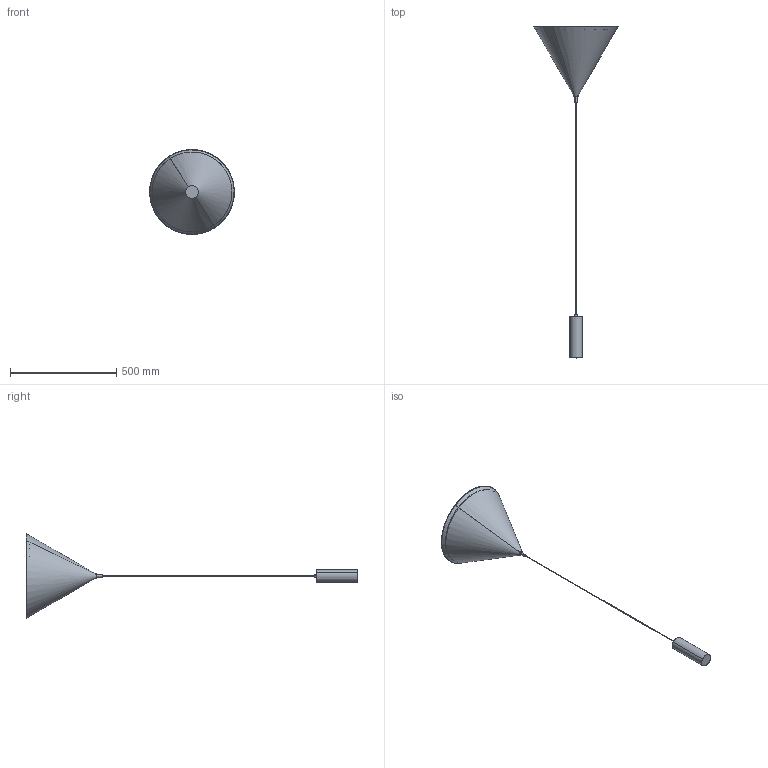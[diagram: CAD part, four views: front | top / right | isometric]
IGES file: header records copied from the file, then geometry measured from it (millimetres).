
Start section: SolidWorks IGES file using analytic representation for surfaces
Global section: file name: C:\Users\Agustin\Desktop\ENERO 2025\2D-3D\2D-3D TRAG_C1340\TRAG_C1340_40.IGS; native system: SolidWorks 2018; preprocessor: SolidWorks 2018; author: Agustin; date: 250117.173045; units: millimetre
Bounding box: 399.18 x 1564.91 x 399.13 mm (x, y, z)
Surface area: 775480.8 mm2 (no closed solid volume)
Topology: 0 solids, 0 shells, 35 faces, 784 edges, 784 vertices
Faces by surface type: bspline 19, revolution 16
